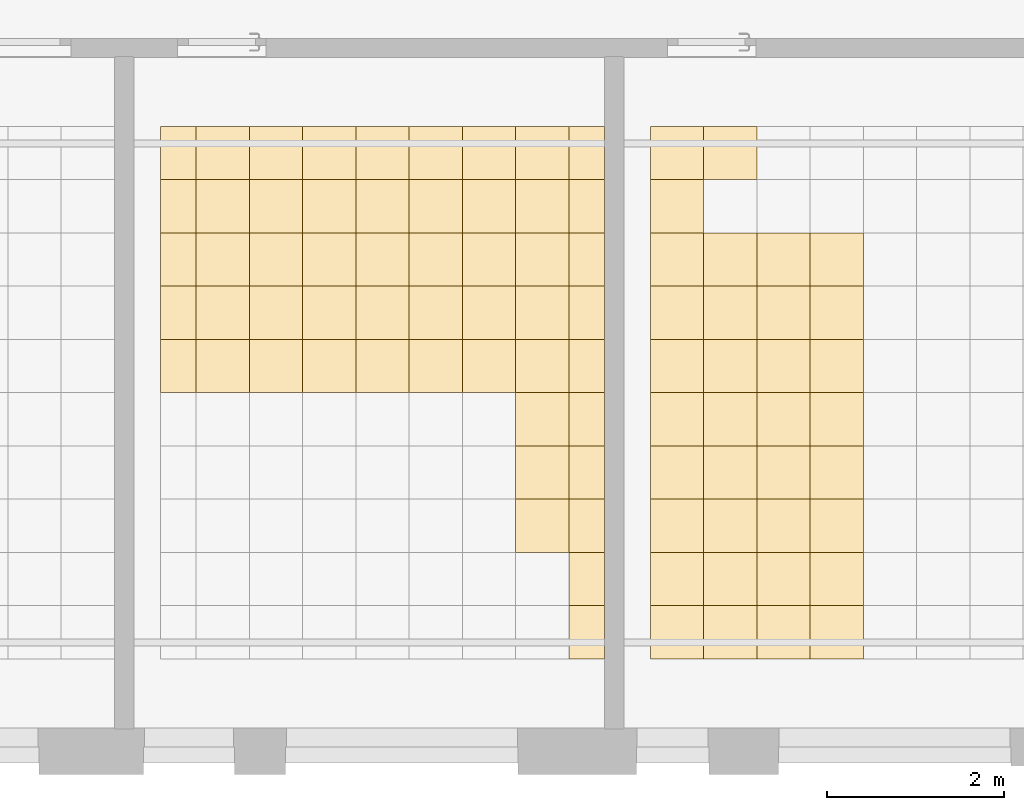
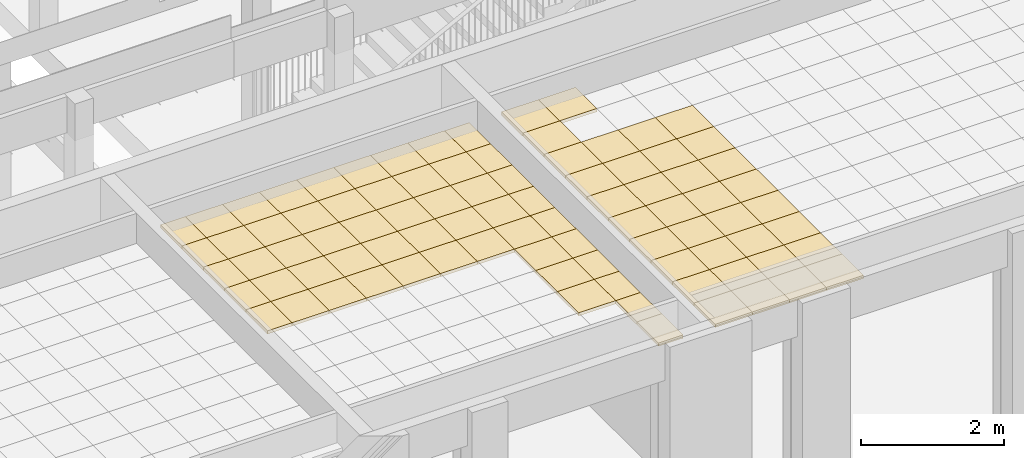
# One storey, part 70 of 79: 88 coverings.
"""IFC2X3 building model written with IfcOpenShell, lengths in millimetres."""

from ifc_helpers import new_model, entity, si_unit, converted_unit, derived_unit, money_unit, direction, frame, origin_with_axes, place, context, subcontext, project, spatial, faceted_brep, material, material_list, type_object, element, save


model = new_model("IFC2X3")

# Units and contexts
model_context = context("Model", 3, precision=0.01, world=origin_with_axes(), true_north=direction((0.0, 1.0)))
body_context = subcontext(model_context, "Body", "Model", "MODEL_VIEW")
ifc_project = project(units=[si_unit("LENGTHUNIT", "METRE", prefix="MILLI"), si_unit("AREAUNIT", "SQUARE_METRE"), si_unit("VOLUMEUNIT", "CUBIC_METRE"), converted_unit("PLANEANGLEUNIT", "DEGREE", entity("IfcPlaneAngleMeasure", 0.0174532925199), si_unit("PLANEANGLEUNIT", "RADIAN"), dimensions=[0, 0, 0, 0, 0, 0, 0]), si_unit("SOLIDANGLEUNIT", "STERADIAN"), money_unit("EUR"), converted_unit("TIMEUNIT", "Year", entity("IfcTimeMeasure", 31556926.0), si_unit("TIMEUNIT", "SECOND"), dimensions=[0, 0, 1, 0, 0, 0, 0]), si_unit("MASSUNIT", "GRAM", prefix="KILO"), si_unit("THERMODYNAMICTEMPERATUREUNIT", "DEGREE_CELSIUS"), si_unit("LUMINOUSINTENSITYUNIT", "LUMEN"), si_unit("ENERGYUNIT", "JOULE", prefix="MEGA"), derived_unit("THERMALCONDUCTANCEUNIT", [(si_unit("POWERUNIT", "WATT"), 1), (si_unit("LENGTHUNIT", "METRE"), -1), (si_unit("THERMODYNAMICTEMPERATUREUNIT", "KELVIN"), -1)]), derived_unit("SPECIFICHEATCAPACITYUNIT", [(si_unit("ENERGYUNIT", "JOULE"), 1), (si_unit("MASSUNIT", "GRAM", prefix="KILO"), -1), (si_unit("THERMODYNAMICTEMPERATUREUNIT", "KELVIN"), -1)]), derived_unit("MASSDENSITYUNIT", [(si_unit("MASSUNIT", "GRAM", prefix="KILO"), 1), (si_unit("VOLUMEUNIT", "CUBIC_METRE"), -1)])], contexts=[model_context])

# Site, building, storey
site_placement = place(None, origin_with_axes())
site = spatial("IfcSite", under=ifc_project, at=site_placement, Name="L.Koidula tn 11b", CompositionType="ELEMENT")
building_placement = place(site_placement, origin_with_axes())
building = spatial("IfcBuilding", under=site, at=building_placement, Name="Rakvere Riigigümnaasium", CompositionType="ELEMENT")
storey_placement = place(building_placement, frame((0.0, 0.0, 3720.0), z_axis=(0.0, 0.0, 1.0), x_axis=(1.0, 0.0, 0.0)))
storey = spatial("IfcBuildingStorey", under=building, at=storey_placement, Name="2.korrus +3,72", CompositionType="ELEMENT", Elevation=3720.0)

# Coverings
ifc_material_1 = material(Name="Karkass")
ifc_material_2 = material(Name="Kipsplaat")
ifc_material_list = material_list([ifc_material_1, ifc_material_2])
covering_type = type_object("IfcCoveringType", Name="SA-LV-Kips-moodul 55", PredefinedType="CEILING")
for number, where, z_axis, x_axis, name in (
    (1, (65329.718762, 10490.4535941, 2750.0), (0.0, 0.0, 1.0), (1.0, 0.0, 0.0), "L-03"),
    (2, (67449.7153767, 6890.45359412, 2750.0), (0.0, 0.0, 1.0), (1.0, 0.0, 0.0), "L-03"),
    (3, (67449.7153767, 6290.45359412, 2750.0), (0.0, 0.0, 1.0), (1.0, 0.0, 0.0), "L-03"),
    (4, (67449.7153767, 11690.4535941, 2750.0), (0.0, 0.0, 1.0), (1.0, 0.0, 0.0), "L-03"),
    (5, (67449.7153767, 7490.45359412, 2750.0), (0.0, 0.0, 1.0), (1.0, 0.0, 0.0), "L-03"),
    (6, (67449.7153767, 8690.45359412, 2750.0), (0.0, 0.0, 1.0), (1.0, 0.0, 0.0), "L-03"),
    (7, (67449.7153767, 8090.45359412, 2750.0), (0.0, 0.0, 1.0), (1.0, 0.0, 0.0), "L-03"),
    (8, (67449.7153767, 9290.45359412, 2750.0), (0.0, 0.0, 1.0), (1.0, 0.0, 0.0), "L-03"),
    (9, (67449.7153767, 10490.4535941, 2750.0), (0.0, 0.0, 1.0), (1.0, 0.0, 0.0), "L-03"),
    (10, (67449.7153767, 9890.45359412, 2750.0), (0.0, 0.0, 1.0), (1.0, 0.0, 0.0), "L-03"),
):
    element("IfcCovering", number, at=place(storey_placement, frame(where, z_axis=z_axis, x_axis=x_axis)), inside=storey, type_object=covering_type, material=ifc_material_list, Name=name, PredefinedType="CEILING", context=body_context, shape_type="Brep", body=[
        faceted_brep([(599.999948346, 0.0, 12.5), (599.999948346, 0.0, 54.5), (0.0, 0.0, 54.5), (0.0, 0.0, 12.5), (599.999948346, 600.0, 12.5), (599.999948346, 600.0, 54.5), (0.0, 600.0, 54.5), (0.0, 600.0, 12.5)], [[[0, 1, 2, 3]], [[4, 5, 1, 0]], [[2, 1, 5, 6]], [[3, 2, 6, 7]], [[3, 7, 4, 0]], [[7, 6, 5, 4]]]),
        faceted_brep([(0.0, 0.0, 0.0), (599.999948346, 0.0, 0.0), (599.999948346, 0.0, 12.5), (0.0, 0.0, 12.5), (0.0, 600.0, 0.0), (599.999948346, 600.0, 0.0), (599.999948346, 600.0, 12.5), (0.0, 600.0, 12.5)], [[[0, 1, 2, 3]], [[0, 4, 5, 1]], [[1, 5, 6, 2]], [[3, 2, 6, 7]], [[4, 0, 3, 7]], [[5, 4, 7, 6]]]),
    ])
for number, where, z_axis, x_axis, name in (
    (11, (66849.7149246, 8690.45359412, 2750.0), (0.0, 0.0, 1.0), (1.0, 0.0, 0.0), "L-03"),
    (12, (66849.7149246, 8090.45359412, 2750.0), (0.0, 0.0, 1.0), (1.0, 0.0, 0.0), "L-03"),
    (13, (66849.7149246, 7490.45359412, 2750.0), (0.0, 0.0, 1.0), (1.0, 0.0, 0.0), "L-03"),
    (14, (66849.7149246, 11090.4535941, 2750.0), (0.0, 0.0, 1.0), (1.0, 0.0, 0.0), "L-03"),
    (15, (66849.7149246, 10490.4535941, 2750.0), (0.0, 0.0, 1.0), (1.0, 0.0, 0.0), "L-03"),
    (16, (66849.7149246, 9890.45359412, 2750.0), (0.0, 0.0, 1.0), (1.0, 0.0, 0.0), "L-03"),
    (17, (66849.7149246, 6890.45359412, 2750.0), (0.0, 0.0, 1.0), (1.0, 0.0, 0.0), "L-03"),
    (18, (66849.7149246, 6290.45359412, 2750.0), (0.0, 0.0, 1.0), (1.0, 0.0, 0.0), "L-03"),
    (19, (66849.7149246, 9290.45359412, 2750.0), (0.0, 0.0, 1.0), (1.0, 0.0, 0.0), "L-03"),
    (20, (66849.7149246, 11690.4535941, 2750.0), (0.0, 0.0, 1.0), (1.0, 0.0, 0.0), "L-03"),
):
    element("IfcCovering", number, at=place(storey_placement, frame(where, z_axis=z_axis, x_axis=x_axis)), inside=storey, type_object=covering_type, material=ifc_material_list, Name=name, PredefinedType="CEILING", context=body_context, shape_type="Brep", body=[
        faceted_brep([(600.000452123, 0.0, 12.5), (600.000452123, 0.0, 54.5), (0.0, 0.0, 54.5), (0.0, 0.0, 12.5), (600.000452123, 600.0, 12.5), (600.000452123, 600.0, 54.5), (0.0, 600.0, 54.5), (0.0, 600.0, 12.5)], [[[0, 1, 2, 3]], [[4, 5, 1, 0]], [[2, 1, 5, 6]], [[3, 2, 6, 7]], [[3, 7, 4, 0]], [[7, 6, 5, 4]]]),
        faceted_brep([(0.0, 0.0, 0.0), (600.000452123, 0.0, 0.0), (600.000452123, 0.0, 12.5), (0.0, 0.0, 12.5), (0.0, 600.0, 0.0), (600.000452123, 600.0, 0.0), (600.000452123, 600.0, 12.5), (0.0, 600.0, 12.5)], [[[0, 1, 2, 3]], [[0, 4, 5, 1]], [[1, 5, 6, 2]], [[3, 2, 6, 7]], [[4, 0, 3, 7]], [[5, 4, 7, 6]]]),
    ])
for number, where, z_axis, x_axis, name in (
    (21, (65929.7187104, 8090.45359412, 2750.0), (0.0, 0.0, 1.0), (1.0, 0.0, 0.0), "L-03"),
    (22, (65929.7187104, 7490.45359412, 2750.0), (0.0, 0.0, 1.0), (1.0, 0.0, 0.0), "L-03"),
):
    element("IfcCovering", number, at=place(storey_placement, frame(where, z_axis=z_axis, x_axis=x_axis)), inside=storey, type_object=covering_type, material=ifc_material_list, Name=name, PredefinedType="CEILING", context=body_context, shape_type="Brep", body=[
        faceted_brep([(399.999039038, 0.0, 12.5), (399.999039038, 0.0, 54.5), (0.0, 0.0, 54.5), (0.0, 0.0, 12.5), (399.999039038, 600.0, 12.5), (399.999039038, 600.0, 54.5), (0.0, 600.0, 54.5), (0.0, 600.0, 12.5)], [[[0, 1, 2, 3]], [[4, 5, 1, 0]], [[2, 1, 5, 6]], [[3, 2, 6, 7]], [[3, 7, 4, 0]], [[7, 6, 5, 4]]]),
        faceted_brep([(0.0, 0.0, 0.0), (399.999039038, 0.0, 0.0), (399.999039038, 0.0, 12.5), (0.0, 0.0, 12.5), (0.0, 600.0, 0.0), (399.999039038, 600.0, 0.0), (399.999039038, 600.0, 12.5), (0.0, 600.0, 12.5)], [[[0, 1, 2, 3]], [[0, 4, 5, 1]], [[1, 5, 6, 2]], [[3, 2, 6, 7]], [[4, 0, 3, 7]], [[5, 4, 7, 6]]]),
    ])
for number, where, z_axis, x_axis, name in (
    (23, (64129.7188137, 9890.45359412, 2750.0), (0.0, 0.0, 1.0), (1.0, 0.0, 0.0), "L-03"),
    (24, (64129.7188137, 11690.4535941, 2750.0), (0.0, 0.0, 1.0), (1.0, 0.0, 0.0), "L-03"),
):
    element("IfcCovering", number, at=place(storey_placement, frame(where, z_axis=z_axis, x_axis=x_axis)), inside=storey, type_object=covering_type, material=ifc_material_list, Name=name, PredefinedType="CEILING", context=body_context, shape_type="Brep", body=[
        faceted_brep([(599.999948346, 0.0, 12.5), (599.999948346, 0.0, 54.5), (0.0, 0.0, 54.5), (0.0, 0.0, 12.5), (599.999948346, 600.0, 12.5), (599.999948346, 600.0, 54.5), (0.0, 600.0, 54.5), (0.0, 600.0, 12.5)], [[[0, 1, 2, 3]], [[4, 5, 1, 0]], [[2, 1, 5, 6]], [[3, 2, 6, 7]], [[3, 7, 4, 0]], [[7, 6, 5, 4]]]),
        faceted_brep([(0.0, 0.0, 0.0), (599.999948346, 0.0, 0.0), (599.999948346, 0.0, 12.5), (0.0, 0.0, 12.5), (0.0, 600.0, 0.0), (599.999948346, 600.0, 0.0), (599.999948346, 600.0, 12.5), (0.0, 600.0, 12.5)], [[[0, 1, 2, 3]], [[0, 4, 5, 1]], [[1, 5, 6, 2]], [[3, 2, 6, 7]], [[4, 0, 3, 7]], [[5, 4, 7, 6]]]),
    ])
for number, where, z_axis, x_axis, name in (
    (25, (65929.7187104, 8690.45359412, 2750.0), (0.0, 0.0, 1.0), (1.0, 0.0, 0.0), "L-03"),
    (26, (65929.7187104, 9290.45359412, 2750.0), (0.0, 0.0, 1.0), (1.0, 0.0, 0.0), "L-03"),
):
    element("IfcCovering", number, at=place(storey_placement, frame(where, z_axis=z_axis, x_axis=x_axis)), inside=storey, type_object=covering_type, material=ifc_material_list, Name=name, PredefinedType="CEILING", context=body_context, shape_type="Brep", body=[
        faceted_brep([(399.999039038, 0.0, 12.5), (399.999039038, 0.0, 54.5), (0.0, 0.0, 54.5), (0.0, 0.0, 12.5), (399.999039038, 600.0, 12.5), (399.999039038, 600.0, 54.5), (0.0, 600.0, 54.5), (0.0, 600.0, 12.5)], [[[0, 1, 2, 3]], [[4, 5, 1, 0]], [[2, 1, 5, 6]], [[3, 2, 6, 7]], [[3, 7, 4, 0]], [[7, 6, 5, 4]]]),
        faceted_brep([(0.0, 0.0, 0.0), (399.999039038, 0.0, 0.0), (399.999039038, 0.0, 12.5), (0.0, 0.0, 12.5), (0.0, 600.0, 0.0), (399.999039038, 600.0, 0.0), (399.999039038, 600.0, 12.5), (0.0, 600.0, 12.5)], [[[0, 1, 2, 3]], [[0, 4, 5, 1]], [[1, 5, 6, 2]], [[3, 2, 6, 7]], [[4, 0, 3, 7]], [[5, 4, 7, 6]]]),
    ])
covering_1_placement = place(storey_placement, frame((64129.7188137, 9290.45359412, 2750.0), z_axis=(0.0, 0.0, 1.0), x_axis=(1.0, 0.0, 0.0)))
element("IfcCovering", 27, at=covering_1_placement, inside=storey, type_object=covering_type, material=ifc_material_list, Name="L-03", PredefinedType="CEILING", context=body_context, shape_type="Brep", body=[
    faceted_brep([(599.999948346, 0.0, 12.5), (599.999948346, 0.0, 54.5), (0.0, 0.0, 54.5), (0.0, 0.0, 12.5), (599.999948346, 600.0, 12.5), (599.999948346, 600.0, 54.5), (0.0, 600.0, 54.5), (0.0, 600.0, 12.5)], [[[0, 1, 2, 3]], [[4, 5, 1, 0]], [[2, 1, 5, 6]], [[3, 2, 6, 7]], [[3, 7, 4, 0]], [[7, 6, 5, 4]]]),
    faceted_brep([(0.0, 0.0, 0.0), (599.999948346, 0.0, 0.0), (599.999948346, 0.0, 12.5), (0.0, 0.0, 12.5), (0.0, 600.0, 0.0), (599.999948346, 600.0, 0.0), (599.999948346, 600.0, 12.5), (0.0, 600.0, 12.5)], [[[0, 1, 2, 3]], [[0, 4, 5, 1]], [[1, 5, 6, 2]], [[3, 2, 6, 7]], [[4, 0, 3, 7]], [[5, 4, 7, 6]]]),
])
for number, where, z_axis, x_axis, name in (
    (28, (65929.7187104, 9890.45359412, 2750.0), (0.0, 0.0, 1.0), (1.0, 0.0, 0.0), "L-03"),
    (29, (65929.7187104, 11090.4535941, 2750.0), (0.0, 0.0, 1.0), (1.0, 0.0, 0.0), "L-03"),
    (30, (65929.7187104, 10490.4535941, 2750.0), (0.0, 0.0, 1.0), (1.0, 0.0, 0.0), "L-03"),
    (31, (65929.7187104, 11690.4535941, 2750.0), (0.0, 0.0, 1.0), (1.0, 0.0, 0.0), "L-03"),
):
    element("IfcCovering", number, at=place(storey_placement, frame(where, z_axis=z_axis, x_axis=x_axis)), inside=storey, type_object=covering_type, material=ifc_material_list, Name=name, PredefinedType="CEILING", context=body_context, shape_type="Brep", body=[
        faceted_brep([(399.999039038, 0.0, 12.5), (399.999039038, 0.0, 54.5), (0.0, 0.0, 54.5), (0.0, 0.0, 12.5), (399.999039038, 600.0, 12.5), (399.999039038, 600.0, 54.5), (0.0, 600.0, 54.5), (0.0, 600.0, 12.5)], [[[0, 1, 2, 3]], [[4, 5, 1, 0]], [[2, 1, 5, 6]], [[3, 2, 6, 7]], [[3, 7, 4, 0]], [[7, 6, 5, 4]]]),
        faceted_brep([(0.0, 0.0, 0.0), (399.999039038, 0.0, 0.0), (399.999039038, 0.0, 12.5), (0.0, 0.0, 12.5), (0.0, 600.0, 0.0), (399.999039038, 600.0, 0.0), (399.999039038, 600.0, 12.5), (0.0, 600.0, 12.5)], [[[0, 1, 2, 3]], [[0, 4, 5, 1]], [[1, 5, 6, 2]], [[3, 2, 6, 7]], [[4, 0, 3, 7]], [[5, 4, 7, 6]]]),
    ])
for number, where, z_axis, x_axis, name in (
    (32, (64729.718762, 10490.4535941, 2750.0), (0.0, 0.0, 1.0), (1.0, 0.0, 0.0), "L-03"),
    (33, (64729.718762, 9890.45359412, 2750.0), (0.0, 0.0, 1.0), (1.0, 0.0, 0.0), "L-03"),
    (34, (64729.718762, 9290.45359412, 2750.0), (0.0, 0.0, 1.0), (1.0, 0.0, 0.0), "L-03"),
):
    element("IfcCovering", number, at=place(storey_placement, frame(where, z_axis=z_axis, x_axis=x_axis)), inside=storey, type_object=covering_type, material=ifc_material_list, Name=name, PredefinedType="CEILING", context=body_context, shape_type="Brep", body=[
        faceted_brep([(600.0, 0.0, 12.5), (600.0, 0.0, 54.5), (0.0, 0.0, 54.5), (0.0, 0.0, 12.5), (600.0, 600.0, 12.5), (600.0, 600.0, 54.5), (0.0, 600.0, 54.5), (0.0, 600.0, 12.5)], [[[0, 1, 2, 3]], [[4, 5, 1, 0]], [[2, 1, 5, 6]], [[3, 2, 6, 7]], [[3, 7, 4, 0]], [[7, 6, 5, 4]]]),
        faceted_brep([(0.0, 0.0, 0.0), (600.0, 0.0, 0.0), (600.0, 0.0, 12.5), (0.0, 0.0, 12.5), (0.0, 600.0, 0.0), (600.0, 600.0, 0.0), (600.0, 600.0, 12.5), (0.0, 600.0, 12.5)], [[[0, 1, 2, 3]], [[0, 4, 5, 1]], [[1, 5, 6, 2]], [[3, 2, 6, 7]], [[4, 0, 3, 7]], [[5, 4, 7, 6]]]),
    ])
for number, where, z_axis, x_axis, name in (
    (35, (65329.718762, 11690.4535941, 2750.0), (0.0, 0.0, 1.0), (1.0, 0.0, 0.0), "L-03"),
    (36, (65329.718762, 7490.45359412, 2750.0), (0.0, 0.0, 1.0), (1.0, 0.0, 0.0), "L-03"),
    (37, (65329.718762, 8690.45359412, 2750.0), (0.0, 0.0, 1.0), (1.0, 0.0, 0.0), "L-03"),
    (38, (65329.718762, 8090.45359412, 2750.0), (0.0, 0.0, 1.0), (1.0, 0.0, 0.0), "L-03"),
    (39, (65329.718762, 9290.45359412, 2750.0), (0.0, 0.0, 1.0), (1.0, 0.0, 0.0), "L-03"),
    (40, (65329.718762, 9890.45359412, 2750.0), (0.0, 0.0, 1.0), (1.0, 0.0, 0.0), "L-03"),
    (41, (65329.718762, 11090.4535941, 2750.0), (0.0, 0.0, 1.0), (1.0, 0.0, 0.0), "L-03"),
    (42, (64129.7188137, 10490.4535941, 2750.0), (0.0, 0.0, 1.0), (1.0, 0.0, 0.0), "L-03"),
):
    element("IfcCovering", number, at=place(storey_placement, frame(where, z_axis=z_axis, x_axis=x_axis)), inside=storey, type_object=covering_type, material=ifc_material_list, Name=name, PredefinedType="CEILING", context=body_context, shape_type="Brep", body=[
        faceted_brep([(599.999948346, 0.0, 12.5), (599.999948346, 0.0, 54.5), (0.0, 0.0, 54.5), (0.0, 0.0, 12.5), (599.999948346, 600.0, 12.5), (599.999948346, 600.0, 54.5), (0.0, 600.0, 54.5), (0.0, 600.0, 12.5)], [[[0, 1, 2, 3]], [[4, 5, 1, 0]], [[2, 1, 5, 6]], [[3, 2, 6, 7]], [[3, 7, 4, 0]], [[7, 6, 5, 4]]]),
        faceted_brep([(0.0, 0.0, 0.0), (599.999948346, 0.0, 0.0), (599.999948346, 0.0, 12.5), (0.0, 0.0, 12.5), (0.0, 600.0, 0.0), (599.999948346, 600.0, 0.0), (599.999948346, 600.0, 12.5), (0.0, 600.0, 12.5)], [[[0, 1, 2, 3]], [[0, 4, 5, 1]], [[1, 5, 6, 2]], [[3, 2, 6, 7]], [[4, 0, 3, 7]], [[5, 4, 7, 6]]]),
    ])
covering_2_placement = place(storey_placement, frame((65929.7187104, 6290.45359412, 2750.0), z_axis=(0.0, 0.0, 1.0), x_axis=(1.0, 0.0, 0.0)))
element("IfcCovering", 43, at=covering_2_placement, inside=storey, type_object=covering_type, material=ifc_material_list, Name="L-03", PredefinedType="CEILING", context=body_context, shape_type="Brep", body=[
    faceted_brep([(399.999039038, 0.0, 12.5), (399.999039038, 0.0, 54.5), (0.0, 0.0, 54.5), (0.0, 0.0, 12.5), (399.999039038, 600.0, 12.5), (399.999039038, 600.0, 54.5), (0.0, 600.0, 54.5), (0.0, 600.0, 12.5)], [[[0, 1, 2, 3]], [[4, 5, 1, 0]], [[2, 1, 5, 6]], [[3, 2, 6, 7]], [[3, 7, 4, 0]], [[7, 6, 5, 4]]]),
    faceted_brep([(0.0, 0.0, 0.0), (399.999039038, 0.0, 0.0), (399.999039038, 0.0, 12.5), (0.0, 0.0, 12.5), (0.0, 600.0, 0.0), (399.999039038, 600.0, 0.0), (399.999039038, 600.0, 12.5), (0.0, 600.0, 12.5)], [[[0, 1, 2, 3]], [[0, 4, 5, 1]], [[1, 5, 6, 2]], [[3, 2, 6, 7]], [[4, 0, 3, 7]], [[5, 4, 7, 6]]]),
])
for number, where, z_axis, x_axis, name in (
    (44, (63529.7188137, 11690.4535941, 2750.0), (0.0, 0.0, 1.0), (1.0, 0.0, 0.0), "L-03"),
    (45, (64729.718762, 11090.4535941, 2750.0), (0.0, 0.0, 1.0), (1.0, 0.0, 0.0), "L-03"),
    (46, (63529.7188137, 11090.4535941, 2750.0), (0.0, 0.0, 1.0), (1.0, 0.0, 0.0), "L-03"),
    (47, (64729.718762, 11690.4535941, 2750.0), (0.0, 0.0, 1.0), (1.0, 0.0, 0.0), "L-03"),
    (48, (63529.7188137, 9890.45359412, 2750.0), (0.0, 0.0, 1.0), (1.0, 0.0, 0.0), "L-03"),
):
    element("IfcCovering", number, at=place(storey_placement, frame(where, z_axis=z_axis, x_axis=x_axis)), inside=storey, type_object=covering_type, material=ifc_material_list, Name=name, PredefinedType="CEILING", context=body_context, shape_type="Brep", body=[
        faceted_brep([(600.0, 0.0, 12.5), (600.0, 0.0, 54.5), (0.0, 0.0, 54.5), (0.0, 0.0, 12.5), (600.0, 600.0, 12.5), (600.0, 600.0, 54.5), (0.0, 600.0, 54.5), (0.0, 600.0, 12.5)], [[[0, 1, 2, 3]], [[4, 5, 1, 0]], [[2, 1, 5, 6]], [[3, 2, 6, 7]], [[3, 7, 4, 0]], [[7, 6, 5, 4]]]),
        faceted_brep([(0.0, 0.0, 0.0), (600.0, 0.0, 0.0), (600.0, 0.0, 12.5), (0.0, 0.0, 12.5), (0.0, 600.0, 0.0), (600.0, 600.0, 0.0), (600.0, 600.0, 12.5), (0.0, 600.0, 12.5)], [[[0, 1, 2, 3]], [[0, 4, 5, 1]], [[1, 5, 6, 2]], [[3, 2, 6, 7]], [[4, 0, 3, 7]], [[5, 4, 7, 6]]]),
    ])
covering_3_placement = place(storey_placement, frame((65929.7187104, 6890.45359412, 2750.0), z_axis=(0.0, 0.0, 1.0), x_axis=(1.0, 0.0, 0.0)))
element("IfcCovering", 49, at=covering_3_placement, inside=storey, type_object=covering_type, material=ifc_material_list, Name="L-03", PredefinedType="CEILING", context=body_context, shape_type="Brep", body=[
    faceted_brep([(399.999039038, 0.0, 12.5), (399.999039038, 0.0, 54.5), (0.0, 0.0, 54.5), (0.0, 0.0, 12.5), (399.999039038, 600.0, 12.5), (399.999039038, 600.0, 54.5), (0.0, 600.0, 54.5), (0.0, 600.0, 12.5)], [[[0, 1, 2, 3]], [[4, 5, 1, 0]], [[2, 1, 5, 6]], [[3, 2, 6, 7]], [[3, 7, 4, 0]], [[7, 6, 5, 4]]]),
    faceted_brep([(0.0, 0.0, 0.0), (399.999039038, 0.0, 0.0), (399.999039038, 0.0, 12.5), (0.0, 0.0, 12.5), (0.0, 600.0, 0.0), (399.999039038, 600.0, 0.0), (399.999039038, 600.0, 12.5), (0.0, 600.0, 12.5)], [[[0, 1, 2, 3]], [[0, 4, 5, 1]], [[1, 5, 6, 2]], [[3, 2, 6, 7]], [[4, 0, 3, 7]], [[5, 4, 7, 6]]]),
])
covering_4_placement = place(storey_placement, frame((63529.7188137, 10490.4535941, 2750.0), z_axis=(0.0, 0.0, 1.0), x_axis=(1.0, 0.0, 0.0)))
element("IfcCovering", 50, at=covering_4_placement, inside=storey, type_object=covering_type, material=ifc_material_list, Name="L-03", PredefinedType="CEILING", context=body_context, shape_type="Brep", body=[
    faceted_brep([(600.0, 0.0, 12.5), (600.0, 0.0, 54.5), (0.0, 0.0, 54.5), (0.0, 0.0, 12.5), (600.0, 600.0, 12.5), (600.0, 600.0, 54.5), (0.0, 600.0, 54.5), (0.0, 600.0, 12.5)], [[[0, 1, 2, 3]], [[4, 5, 1, 0]], [[2, 1, 5, 6]], [[3, 2, 6, 7]], [[3, 7, 4, 0]], [[7, 6, 5, 4]]]),
    faceted_brep([(0.0, 0.0, 0.0), (600.0, 0.0, 0.0), (600.0, 0.0, 12.5), (0.0, 0.0, 12.5), (0.0, 600.0, 0.0), (600.0, 600.0, 0.0), (600.0, 600.0, 12.5), (0.0, 600.0, 12.5)], [[[0, 1, 2, 3]], [[0, 4, 5, 1]], [[1, 5, 6, 2]], [[3, 2, 6, 7]], [[4, 0, 3, 7]], [[5, 4, 7, 6]]]),
])
covering_5_placement = place(storey_placement, frame((64129.7188137, 11090.4535941, 2750.0), z_axis=(0.0, 0.0, 1.0), x_axis=(1.0, 0.0, 0.0)))
element("IfcCovering", 51, at=covering_5_placement, inside=storey, type_object=covering_type, material=ifc_material_list, Name="L-03", PredefinedType="CEILING", context=body_context, shape_type="Brep", body=[
    faceted_brep([(599.999948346, 0.0, 12.5), (599.999948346, 0.0, 54.5), (0.0, 0.0, 54.5), (0.0, 0.0, 12.5), (599.999948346, 600.0, 12.5), (599.999948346, 600.0, 54.5), (0.0, 600.0, 54.5), (0.0, 600.0, 12.5)], [[[0, 1, 2, 3]], [[4, 5, 1, 0]], [[2, 1, 5, 6]], [[3, 2, 6, 7]], [[3, 7, 4, 0]], [[7, 6, 5, 4]]]),
    faceted_brep([(0.0, 0.0, 0.0), (599.999948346, 0.0, 0.0), (599.999948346, 0.0, 12.5), (0.0, 0.0, 12.5), (0.0, 600.0, 0.0), (599.999948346, 600.0, 0.0), (599.999948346, 600.0, 12.5), (0.0, 600.0, 12.5)], [[[0, 1, 2, 3]], [[0, 4, 5, 1]], [[1, 5, 6, 2]], [[3, 2, 6, 7]], [[4, 0, 3, 7]], [[5, 4, 7, 6]]]),
])
covering_6_placement = place(storey_placement, frame((63529.7188137, 9290.45359412, 2750.0), z_axis=(0.0, 0.0, 1.0), x_axis=(1.0, 0.0, 0.0)))
element("IfcCovering", 52, at=covering_6_placement, inside=storey, type_object=covering_type, material=ifc_material_list, Name="L-03", PredefinedType="CEILING", context=body_context, shape_type="Brep", body=[
    faceted_brep([(600.0, 0.0, 12.5), (600.0, 0.0, 54.5), (0.0, 0.0, 54.5), (0.0, 0.0, 12.5), (600.0, 600.0, 12.5), (600.0, 600.0, 54.5), (0.0, 600.0, 54.5), (0.0, 600.0, 12.5)], [[[0, 1, 2, 3]], [[4, 5, 1, 0]], [[2, 1, 5, 6]], [[3, 2, 6, 7]], [[3, 7, 4, 0]], [[7, 6, 5, 4]]]),
    faceted_brep([(0.0, 0.0, 0.0), (600.0, 0.0, 0.0), (600.0, 0.0, 12.5), (0.0, 0.0, 12.5), (0.0, 600.0, 0.0), (600.0, 600.0, 0.0), (600.0, 600.0, 12.5), (0.0, 600.0, 12.5)], [[[0, 1, 2, 3]], [[0, 4, 5, 1]], [[1, 5, 6, 2]], [[3, 2, 6, 7]], [[4, 0, 3, 7]], [[5, 4, 7, 6]]]),
])
for number, where, z_axis, x_axis, name in (
    (53, (68649.715325, 10490.4535941, 2750.0), (0.0, 0.0, 1.0), (1.0, 0.0, 0.0), "L-03"),
    (54, (68649.715325, 9890.45359412, 2750.0), (0.0, 0.0, 1.0), (1.0, 0.0, 0.0), "L-03"),
):
    element("IfcCovering", number, at=place(storey_placement, frame(where, z_axis=z_axis, x_axis=x_axis)), inside=storey, type_object=covering_type, material=ifc_material_list, Name=name, PredefinedType="CEILING", context=body_context, shape_type="Brep", body=[
        faceted_brep([(599.999948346, 0.0, 12.5), (599.999948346, 0.0, 54.5), (0.0, 0.0, 54.5), (0.0, 0.0, 12.5), (599.999948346, 600.0, 12.5), (599.999948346, 600.0, 54.5), (0.0, 600.0, 54.5), (0.0, 600.0, 12.5)], [[[0, 1, 2, 3]], [[4, 5, 1, 0]], [[2, 1, 5, 6]], [[3, 2, 6, 7]], [[3, 7, 4, 0]], [[7, 6, 5, 4]]]),
        faceted_brep([(0.0, 0.0, 0.0), (599.999948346, 0.0, 0.0), (599.999948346, 0.0, 12.5), (0.0, 0.0, 12.5), (0.0, 600.0, 0.0), (599.999948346, 600.0, 0.0), (599.999948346, 600.0, 12.5), (0.0, 600.0, 12.5)], [[[0, 1, 2, 3]], [[0, 4, 5, 1]], [[1, 5, 6, 2]], [[3, 2, 6, 7]], [[4, 0, 3, 7]], [[5, 4, 7, 6]]]),
    ])
for number, where, z_axis, x_axis, name in (
    (55, (68049.715325, 6290.45359412, 2750.0), (0.0, 0.0, 1.0), (1.0, 0.0, 0.0), "L-03"),
    (56, (68049.715325, 6890.45359412, 2750.0), (0.0, 0.0, 1.0), (1.0, 0.0, 0.0), "L-03"),
):
    element("IfcCovering", number, at=place(storey_placement, frame(where, z_axis=z_axis, x_axis=x_axis)), inside=storey, type_object=covering_type, material=ifc_material_list, Name=name, PredefinedType="CEILING", context=body_context, shape_type="Brep", body=[
        faceted_brep([(600.0, 0.0, 12.5), (600.0, 0.0, 54.5), (0.0, 0.0, 54.5), (0.0, 0.0, 12.5), (600.0, 600.0, 12.5), (600.0, 600.0, 54.5), (0.0, 600.0, 54.5), (0.0, 600.0, 12.5)], [[[0, 1, 2, 3]], [[4, 5, 1, 0]], [[2, 1, 5, 6]], [[3, 2, 6, 7]], [[3, 7, 4, 0]], [[7, 6, 5, 4]]]),
        faceted_brep([(0.0, 0.0, 0.0), (600.0, 0.0, 0.0), (600.0, 0.0, 12.5), (0.0, 0.0, 12.5), (0.0, 600.0, 0.0), (600.0, 600.0, 0.0), (600.0, 600.0, 12.5), (0.0, 600.0, 12.5)], [[[0, 1, 2, 3]], [[0, 4, 5, 1]], [[1, 5, 6, 2]], [[3, 2, 6, 7]], [[4, 0, 3, 7]], [[5, 4, 7, 6]]]),
    ])
covering_7_placement = place(storey_placement, frame((68649.715325, 9290.45359412, 2750.0), z_axis=(0.0, 0.0, 1.0), x_axis=(1.0, 0.0, 0.0)))
element("IfcCovering", 57, at=covering_7_placement, inside=storey, type_object=covering_type, material=ifc_material_list, Name="L-03", PredefinedType="CEILING", context=body_context, shape_type="Brep", body=[
    faceted_brep([(599.999948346, 0.0, 12.5), (599.999948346, 0.0, 54.5), (0.0, 0.0, 54.5), (0.0, 0.0, 12.5), (599.999948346, 600.0, 12.5), (599.999948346, 600.0, 54.5), (0.0, 600.0, 54.5), (0.0, 600.0, 12.5)], [[[0, 1, 2, 3]], [[4, 5, 1, 0]], [[2, 1, 5, 6]], [[3, 2, 6, 7]], [[3, 7, 4, 0]], [[7, 6, 5, 4]]]),
    faceted_brep([(0.0, 0.0, 0.0), (599.999948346, 0.0, 0.0), (599.999948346, 0.0, 12.5), (0.0, 0.0, 12.5), (0.0, 600.0, 0.0), (599.999948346, 600.0, 0.0), (599.999948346, 600.0, 12.5), (0.0, 600.0, 12.5)], [[[0, 1, 2, 3]], [[0, 4, 5, 1]], [[1, 5, 6, 2]], [[3, 2, 6, 7]], [[4, 0, 3, 7]], [[5, 4, 7, 6]]]),
])
for number, where, z_axis, x_axis, name in (
    (58, (68049.715325, 9290.45359412, 2750.0), (0.0, 0.0, 1.0), (1.0, 0.0, 0.0), "L-03"),
    (59, (68049.715325, 9890.45359412, 2750.0), (0.0, 0.0, 1.0), (1.0, 0.0, 0.0), "L-03"),
    (60, (68049.715325, 10490.4535941, 2750.0), (0.0, 0.0, 1.0), (1.0, 0.0, 0.0), "L-03"),
):
    element("IfcCovering", number, at=place(storey_placement, frame(where, z_axis=z_axis, x_axis=x_axis)), inside=storey, type_object=covering_type, material=ifc_material_list, Name=name, PredefinedType="CEILING", context=body_context, shape_type="Brep", body=[
        faceted_brep([(600.0, 0.0, 12.5), (600.0, 0.0, 54.5), (0.0, 0.0, 54.5), (0.0, 0.0, 12.5), (600.0, 600.0, 12.5), (600.0, 600.0, 54.5), (0.0, 600.0, 54.5), (0.0, 600.0, 12.5)], [[[0, 1, 2, 3]], [[4, 5, 1, 0]], [[2, 1, 5, 6]], [[3, 2, 6, 7]], [[3, 7, 4, 0]], [[7, 6, 5, 4]]]),
        faceted_brep([(0.0, 0.0, 0.0), (600.0, 0.0, 0.0), (600.0, 0.0, 12.5), (0.0, 0.0, 12.5), (0.0, 600.0, 0.0), (600.0, 600.0, 0.0), (600.0, 600.0, 12.5), (0.0, 600.0, 12.5)], [[[0, 1, 2, 3]], [[0, 4, 5, 1]], [[1, 5, 6, 2]], [[3, 2, 6, 7]], [[4, 0, 3, 7]], [[5, 4, 7, 6]]]),
    ])
for number, where, z_axis, x_axis, name in (
    (61, (68649.715325, 8690.45359412, 2750.0), (0.0, 0.0, 1.0), (1.0, 0.0, 0.0), "L-03"),
    (62, (68649.715325, 8090.45359412, 2750.0), (0.0, 0.0, 1.0), (1.0, 0.0, 0.0), "L-03"),
    (63, (68649.715325, 6890.45359412, 2750.0), (0.0, 0.0, 1.0), (1.0, 0.0, 0.0), "L-03"),
    (64, (68649.715325, 6290.45359412, 2750.0), (0.0, 0.0, 1.0), (1.0, 0.0, 0.0), "L-03"),
    (65, (68649.715325, 7490.45359412, 2750.0), (0.0, 0.0, 1.0), (1.0, 0.0, 0.0), "L-03"),
):
    element("IfcCovering", number, at=place(storey_placement, frame(where, z_axis=z_axis, x_axis=x_axis)), inside=storey, type_object=covering_type, material=ifc_material_list, Name=name, PredefinedType="CEILING", context=body_context, shape_type="Brep", body=[
        faceted_brep([(599.999948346, 0.0, 12.5), (599.999948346, 0.0, 54.5), (0.0, 0.0, 54.5), (0.0, 0.0, 12.5), (599.999948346, 600.0, 12.5), (599.999948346, 600.0, 54.5), (0.0, 600.0, 54.5), (0.0, 600.0, 12.5)], [[[0, 1, 2, 3]], [[4, 5, 1, 0]], [[2, 1, 5, 6]], [[3, 2, 6, 7]], [[3, 7, 4, 0]], [[7, 6, 5, 4]]]),
        faceted_brep([(0.0, 0.0, 0.0), (599.999948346, 0.0, 0.0), (599.999948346, 0.0, 12.5), (0.0, 0.0, 12.5), (0.0, 600.0, 0.0), (599.999948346, 600.0, 0.0), (599.999948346, 600.0, 12.5), (0.0, 600.0, 12.5)], [[[0, 1, 2, 3]], [[0, 4, 5, 1]], [[1, 5, 6, 2]], [[3, 2, 6, 7]], [[4, 0, 3, 7]], [[5, 4, 7, 6]]]),
    ])
for number, where, z_axis, x_axis, name in (
    (66, (68049.715325, 8690.45359412, 2750.0), (0.0, 0.0, 1.0), (1.0, 0.0, 0.0), "L-03"),
    (67, (68049.715325, 7490.45359412, 2750.0), (0.0, 0.0, 1.0), (1.0, 0.0, 0.0), "L-03"),
    (68, (68049.715325, 8090.45359412, 2750.0), (0.0, 0.0, 1.0), (1.0, 0.0, 0.0), "L-03"),
):
    element("IfcCovering", number, at=place(storey_placement, frame(where, z_axis=z_axis, x_axis=x_axis)), inside=storey, type_object=covering_type, material=ifc_material_list, Name=name, PredefinedType="CEILING", context=body_context, shape_type="Brep", body=[
        faceted_brep([(600.0, 0.0, 12.5), (600.0, 0.0, 54.5), (0.0, 0.0, 54.5), (0.0, 0.0, 12.5), (600.0, 600.0, 12.5), (600.0, 600.0, 54.5), (0.0, 600.0, 54.5), (0.0, 600.0, 12.5)], [[[0, 1, 2, 3]], [[4, 5, 1, 0]], [[2, 1, 5, 6]], [[3, 2, 6, 7]], [[3, 7, 4, 0]], [[7, 6, 5, 4]]]),
        faceted_brep([(0.0, 0.0, 0.0), (600.0, 0.0, 0.0), (600.0, 0.0, 12.5), (0.0, 0.0, 12.5), (0.0, 600.0, 0.0), (600.0, 600.0, 0.0), (600.0, 600.0, 12.5), (0.0, 600.0, 12.5)], [[[0, 1, 2, 3]], [[0, 4, 5, 1]], [[1, 5, 6, 2]], [[3, 2, 6, 7]], [[4, 0, 3, 7]], [[5, 4, 7, 6]]]),
    ])
for number, where, z_axis, x_axis, name in (
    (69, (61729.718917, 11090.4535941, 2750.0), (0.0, 0.0, 1.0), (1.0, 0.0, 0.0), "L-03"),
    (70, (61729.718917, 10490.4535941, 2750.0), (0.0, 0.0, 1.0), (1.0, 0.0, 0.0), "L-03"),
    (71, (61729.718917, 9890.45359412, 2750.0), (0.0, 0.0, 1.0), (1.0, 0.0, 0.0), "L-03"),
    (72, (61729.718917, 9290.45359412, 2750.0), (0.0, 0.0, 1.0), (1.0, 0.0, 0.0), "L-03"),
    (73, (61729.718917, 11690.4535941, 2750.0), (0.0, 0.0, 1.0), (1.0, 0.0, 0.0), "L-03"),
):
    element("IfcCovering", number, at=place(storey_placement, frame(where, z_axis=z_axis, x_axis=x_axis)), inside=storey, type_object=covering_type, material=ifc_material_list, Name=name, PredefinedType="CEILING", context=body_context, shape_type="Brep", body=[
        faceted_brep([(599.999948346, 0.0, 12.5), (599.999948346, 0.0, 54.5), (0.0, 0.0, 54.5), (0.0, 0.0, 12.5), (599.999948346, 600.0, 12.5), (599.999948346, 600.0, 54.5), (0.0, 600.0, 54.5), (0.0, 600.0, 12.5)], [[[0, 1, 2, 3]], [[4, 5, 1, 0]], [[2, 1, 5, 6]], [[3, 2, 6, 7]], [[3, 7, 4, 0]], [[7, 6, 5, 4]]]),
        faceted_brep([(0.0, 0.0, 0.0), (599.999948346, 0.0, 0.0), (599.999948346, 0.0, 12.5), (0.0, 0.0, 12.5), (0.0, 600.0, 0.0), (599.999948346, 600.0, 0.0), (599.999948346, 600.0, 12.5), (0.0, 600.0, 12.5)], [[[0, 1, 2, 3]], [[0, 4, 5, 1]], [[1, 5, 6, 2]], [[3, 2, 6, 7]], [[4, 0, 3, 7]], [[5, 4, 7, 6]]]),
    ])
for number, where, z_axis, x_axis, name in (
    (74, (61329.7177494, 9290.45359412, 2750.0), (0.0, 0.0, 1.0), (1.0, 0.0, 0.0), "L-03"),
    (75, (61329.7177494, 9890.45359412, 2750.0), (0.0, 0.0, 1.0), (1.0, 0.0, 0.0), "L-03"),
    (76, (61329.7177494, 10490.4535941, 2750.0), (0.0, 0.0, 1.0), (1.0, 0.0, 0.0), "L-03"),
    (77, (61329.7177494, 11090.4535941, 2750.0), (0.0, 0.0, 1.0), (1.0, 0.0, 0.0), "L-03"),
    (78, (61329.7177494, 11690.4535941, 2750.0), (0.0, 0.0, 1.0), (1.0, 0.0, 0.0), "L-03"),
):
    element("IfcCovering", number, at=place(storey_placement, frame(where, z_axis=z_axis, x_axis=x_axis)), inside=storey, type_object=covering_type, material=ifc_material_list, Name=name, PredefinedType="CEILING", context=body_context, shape_type="Brep", body=[
        faceted_brep([(400.001167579, 0.0, 12.5), (400.001167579, 0.0, 54.5), (0.0, 0.0, 54.5), (0.0, 0.0, 12.5), (400.001167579, 600.0, 12.5), (400.001167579, 600.0, 54.5), (0.0, 600.0, 54.5), (0.0, 600.0, 12.5)], [[[0, 1, 2, 3]], [[4, 5, 1, 0]], [[2, 1, 5, 6]], [[3, 2, 6, 7]], [[3, 7, 4, 0]], [[7, 6, 5, 4]]]),
        faceted_brep([(0.0, 0.0, 0.0), (400.001167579, 0.0, 0.0), (400.001167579, 0.0, 12.5), (0.0, 0.0, 12.5), (0.0, 600.0, 0.0), (400.001167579, 600.0, 0.0), (400.001167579, 600.0, 12.5), (0.0, 600.0, 12.5)], [[[0, 1, 2, 3]], [[0, 4, 5, 1]], [[1, 5, 6, 2]], [[3, 2, 6, 7]], [[4, 0, 3, 7]], [[5, 4, 7, 6]]]),
    ])
for number, where, z_axis, x_axis, name in (
    (79, (62929.7188653, 11090.4535941, 2750.0), (0.0, 0.0, 1.0), (1.0, 0.0, 0.0), "L-03"),
    (80, (62929.7188653, 10490.4535941, 2750.0), (0.0, 0.0, 1.0), (1.0, 0.0, 0.0), "L-03"),
    (81, (62929.7188653, 9890.45359412, 2750.0), (0.0, 0.0, 1.0), (1.0, 0.0, 0.0), "L-03"),
    (82, (62929.7188653, 9290.45359412, 2750.0), (0.0, 0.0, 1.0), (1.0, 0.0, 0.0), "L-03"),
    (83, (62929.7188653, 11690.4535941, 2750.0), (0.0, 0.0, 1.0), (1.0, 0.0, 0.0), "L-03"),
):
    element("IfcCovering", number, at=place(storey_placement, frame(where, z_axis=z_axis, x_axis=x_axis)), inside=storey, type_object=covering_type, material=ifc_material_list, Name=name, PredefinedType="CEILING", context=body_context, shape_type="Brep", body=[
        faceted_brep([(599.999948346, 0.0, 12.5), (599.999948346, 0.0, 54.5), (0.0, 0.0, 54.5), (0.0, 0.0, 12.5), (599.999948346, 600.0, 12.5), (599.999948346, 600.0, 54.5), (0.0, 600.0, 54.5), (0.0, 600.0, 12.5)], [[[0, 1, 2, 3]], [[4, 5, 1, 0]], [[2, 1, 5, 6]], [[3, 2, 6, 7]], [[3, 7, 4, 0]], [[7, 6, 5, 4]]]),
        faceted_brep([(0.0, 0.0, 0.0), (599.999948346, 0.0, 0.0), (599.999948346, 0.0, 12.5), (0.0, 0.0, 12.5), (0.0, 600.0, 0.0), (599.999948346, 600.0, 0.0), (599.999948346, 600.0, 12.5), (0.0, 600.0, 12.5)], [[[0, 1, 2, 3]], [[0, 4, 5, 1]], [[1, 5, 6, 2]], [[3, 2, 6, 7]], [[4, 0, 3, 7]], [[5, 4, 7, 6]]]),
    ])
for number, where, z_axis, x_axis, name in (
    (84, (62329.7188653, 9290.45359412, 2750.0), (0.0, 0.0, 1.0), (1.0, 0.0, 0.0), "L-03"),
    (85, (62329.7188653, 9890.45359412, 2750.0), (0.0, 0.0, 1.0), (1.0, 0.0, 0.0), "L-03"),
    (86, (62329.7188653, 10490.4535941, 2750.0), (0.0, 0.0, 1.0), (1.0, 0.0, 0.0), "L-03"),
    (87, (62329.7188653, 11090.4535941, 2750.0), (0.0, 0.0, 1.0), (1.0, 0.0, 0.0), "L-03"),
    (88, (62329.7188653, 11690.4535941, 2750.0), (0.0, 0.0, 1.0), (1.0, 0.0, 0.0), "L-03"),
):
    element("IfcCovering", number, at=place(storey_placement, frame(where, z_axis=z_axis, x_axis=x_axis)), inside=storey, type_object=covering_type, material=ifc_material_list, Name=name, PredefinedType="CEILING", context=body_context, shape_type="Brep", body=[
        faceted_brep([(600.0, 0.0, 12.5), (600.0, 0.0, 54.5), (0.0, 0.0, 54.5), (0.0, 0.0, 12.5), (600.0, 600.0, 12.5), (600.0, 600.0, 54.5), (0.0, 600.0, 54.5), (0.0, 600.0, 12.5)], [[[0, 1, 2, 3]], [[4, 5, 1, 0]], [[2, 1, 5, 6]], [[3, 2, 6, 7]], [[3, 7, 4, 0]], [[7, 6, 5, 4]]]),
        faceted_brep([(0.0, 0.0, 0.0), (600.0, 0.0, 0.0), (600.0, 0.0, 12.5), (0.0, 0.0, 12.5), (0.0, 600.0, 0.0), (600.0, 600.0, 0.0), (600.0, 600.0, 12.5), (0.0, 600.0, 12.5)], [[[0, 1, 2, 3]], [[0, 4, 5, 1]], [[1, 5, 6, 2]], [[3, 2, 6, 7]], [[4, 0, 3, 7]], [[5, 4, 7, 6]]]),
    ])

save(model, "model.ifc")
